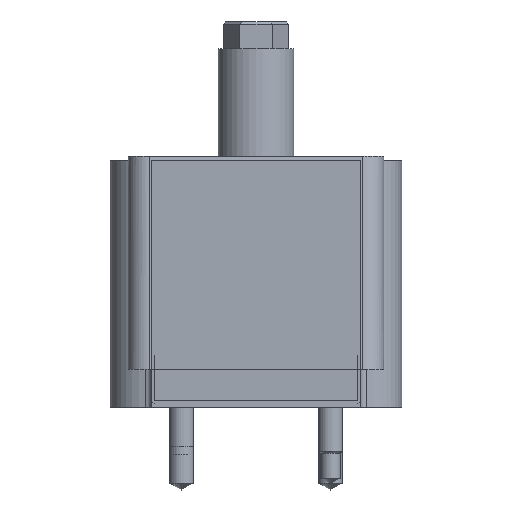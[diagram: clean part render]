
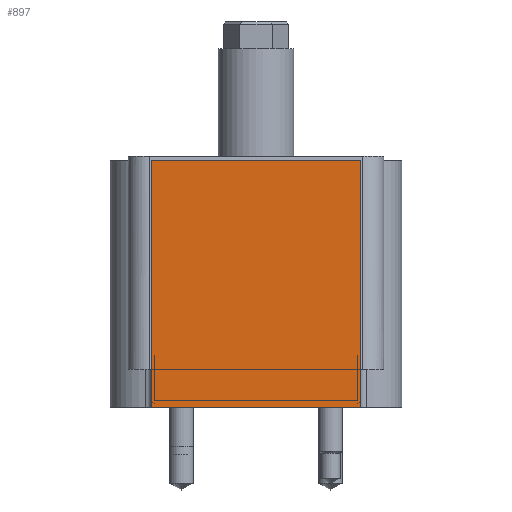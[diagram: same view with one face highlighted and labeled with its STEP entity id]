
A CAD part, left-side view. The second image highlights one B-rep face of the part: STEP entity #897.
In plain terms, the highlighted planar face has unit normal (-1, 0, 0).
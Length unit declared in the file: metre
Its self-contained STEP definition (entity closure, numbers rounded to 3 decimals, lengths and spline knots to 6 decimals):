
#897=ADVANCED_FACE('',(#1945),#1946,.T.);
#1945=FACE_OUTER_BOUND('',#3751,.T.);
#1946=PLANE('',#3752);
#3751=EDGE_LOOP('',(#13764,#13765,#13766,#13767));
#3752=AXIS2_PLACEMENT_3D('',#13768,#13769,#13770);
#13764=ORIENTED_EDGE('',*,*,#15933,.T.);
#13765=ORIENTED_EDGE('',*,*,#15921,.F.);
#13766=ORIENTED_EDGE('',*,*,#15934,.T.);
#13767=ORIENTED_EDGE('',*,*,#15931,.F.);
#13768=CARTESIAN_POINT('',(-0.058801,0.0,0.0));
#13769=DIRECTION('',(-1.0,0.0,0.0));
#13770=DIRECTION('',(0.0,0.0,1.0));
#15921=EDGE_CURVE('',#16818,#16813,#16820,.F.);
#15931=EDGE_CURVE('',#16836,#16831,#16838,.F.);
#15933=EDGE_CURVE('',#16836,#16813,#16840,.T.);
#15934=EDGE_CURVE('',#16818,#16831,#16841,.T.);
#16813=VERTEX_POINT('',#18080);
#16818=VERTEX_POINT('',#18087);
#16820=LINE('',#18090,#18091);
#16831=VERTEX_POINT('',#18106);
#16836=VERTEX_POINT('',#18113);
#16838=LINE('',#18116,#18117);
#16840=LINE('',#18119,#18120);
#16841=LINE('',#18121,#18122);
#18080=CARTESIAN_POINT('',(-0.058801,-0.034988,0.0));
#18087=CARTESIAN_POINT('',(-0.058801,-0.034988,0.08255));
#18090=CARTESIAN_POINT('',(-0.058801,-0.034988,0.0));
#18091=VECTOR('',#21750,1.0);
#18106=CARTESIAN_POINT('',(-0.058801,0.034988,0.08255));
#18113=CARTESIAN_POINT('',(-0.058801,0.034988,0.0));
#18116=CARTESIAN_POINT('',(-0.058801,0.034988,0.0));
#18117=VECTOR('',#21758,1.0);
#18119=CARTESIAN_POINT('',(-0.058801,0.0,0.0));
#18120=VECTOR('',#21759,1.0);
#18121=CARTESIAN_POINT('',(-0.058801,0.0,0.08255));
#18122=VECTOR('',#21760,1.0);
#21750=DIRECTION('',(0.0,0.0,1.0));
#21758=DIRECTION('',(0.0,0.0,-1.0));
#21759=DIRECTION('',(-0.0,-1.0,-0.0));
#21760=DIRECTION('',(0.0,1.0,0.0));
